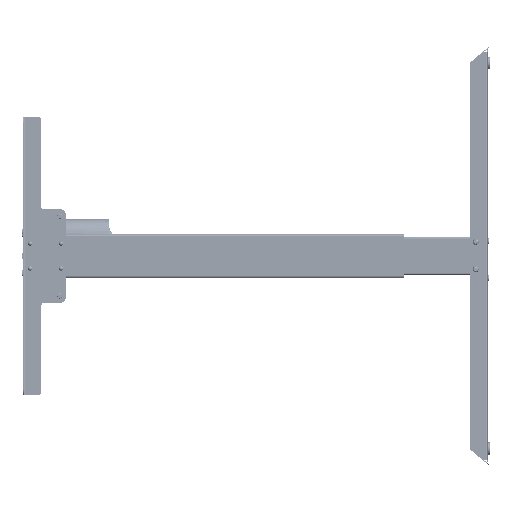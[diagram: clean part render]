
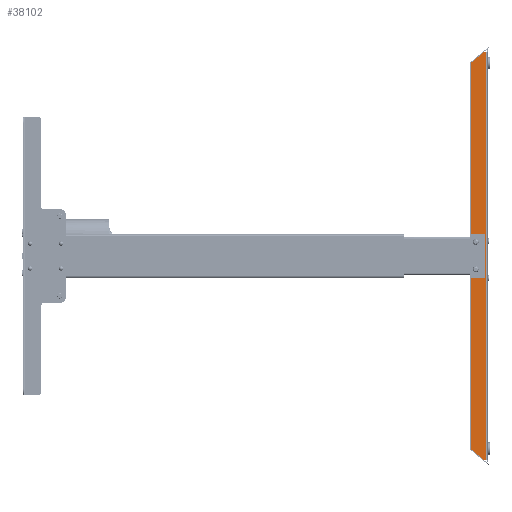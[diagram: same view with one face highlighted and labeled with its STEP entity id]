
A CAD part, left-side view. The second image highlights one B-rep face of the part: STEP entity #38102.
In plain terms, the highlighted planar face has unit normal (-1, 0, 0).
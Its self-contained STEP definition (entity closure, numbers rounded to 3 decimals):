
#9 = AXIS2_PLACEMENT_3D ( 'NONE', #24576, #62690, #100793 ) ;
#6217 = DIRECTION ( 'NONE',  ( -1., 0., 0. ) ) ;
#7092 = CARTESIAN_POINT ( 'NONE',  ( -21.5, 26., 310.284 ) ) ;
#8722 = VERTEX_POINT ( 'NONE', #108064 ) ;
#9560 = EDGE_CURVE ( 'NONE', #118874, #48406, #137733, .T. ) ;
#10016 = LINE ( 'NONE', #76708, #80795 ) ;
#10393 = EDGE_CURVE ( 'NONE', #61408, #125363, #39532, .T. ) ;
#10814 = VECTOR ( 'NONE', #142630, 1000. ) ;
#11673 = EDGE_LOOP ( 'NONE', ( #40321, #125358, #98291, #109445, #142360, #66888, #105610, #146217, #88692, #34281 ) ) ;
#16346 = CARTESIAN_POINT ( 'NONE',  ( -21.5, 5.325, -329.032 ) ) ;
#17106 = DIRECTION ( 'NONE',  ( 1., 0., 0. ) ) ;
#20058 = EDGE_CURVE ( 'NONE', #123552, #61408, #139211, .T. ) ;
#22734 = CARTESIAN_POINT ( 'NONE',  ( -21.5, 1., 329.5 ) ) ;
#24576 = CARTESIAN_POINT ( 'NONE',  ( -21.5, 0., 333.5 ) ) ;
#26269 = CARTESIAN_POINT ( 'NONE',  ( -21.5, 26., 329.5 ) ) ;
#28044 = AXIS2_PLACEMENT_3D ( 'NONE', #108269, #150706, #96149 ) ;
#30731 = EDGE_CURVE ( 'NONE', #8722, #163188, #59509, .T. ) ;
#34281 = ORIENTED_EDGE ( 'NONE', *, *, #165122, .F. ) ;
#38102 = ADVANCED_FACE ( 'NONE', ( #154540, #61833, #168419 ), #102499, .T. ) ;
#39532 = LINE ( 'NONE', #132204, #88404 ) ;
#40321 = ORIENTED_EDGE ( 'NONE', *, *, #41508, .F. ) ;
#40540 = DIRECTION ( 'NONE',  ( 0., 0., -1. ) ) ;
#41508 = EDGE_CURVE ( 'NONE', #123552, #56477, #121467, .T. ) ;
#42918 = EDGE_CURVE ( 'NONE', #90318, #90318, #102655, .T. ) ;
#45287 = EDGE_LOOP ( 'NONE', ( #67923 ) ) ;
#46055 = ORIENTED_EDGE ( 'NONE', *, *, #42918, .T. ) ;
#46204 = AXIS2_PLACEMENT_3D ( 'NONE', #105026, #129295, #53918 ) ;
#46652 = VERTEX_POINT ( 'NONE', #16346 ) ;
#47537 = AXIS2_PLACEMENT_3D ( 'NONE', #107191, #17106, #40540 ) ;
#48255 = CARTESIAN_POINT ( 'NONE',  ( -21.5, 24.928, -312.583 ) ) ;
#48298 = CARTESIAN_POINT ( 'NONE',  ( -21.5, 24.928, 312.583 ) ) ;
#48406 = VERTEX_POINT ( 'NONE', #133249 ) ;
#50929 = CARTESIAN_POINT ( 'NONE',  ( -21.5, 5.325, 329.032 ) ) ;
#51257 = CARTESIAN_POINT ( 'NONE',  ( -21.5, 4.039, 327.5 ) ) ;
#52524 = CARTESIAN_POINT ( 'NONE',  ( -21.5, 1., 333.5 ) ) ;
#53918 = DIRECTION ( 'NONE',  ( 0., 0., 1. ) ) ;
#56477 = VERTEX_POINT ( 'NONE', #22734 ) ;
#58843 = VECTOR ( 'NONE', #78224, 1000. ) ;
#59509 = CIRCLE ( 'NONE', #170247, 3. ) ;
#61408 = VERTEX_POINT ( 'NONE', #50929 ) ;
#61748 = EDGE_CURVE ( 'NONE', #115870, #115870, #149973, .T. ) ;
#61833 = FACE_BOUND ( 'NONE', #144244, .T. ) ;
#62690 = DIRECTION ( 'NONE',  ( -1., 0., 0. ) ) ;
#66888 = ORIENTED_EDGE ( 'NONE', *, *, #30731, .T. ) ;
#67923 = ORIENTED_EDGE ( 'NONE', *, *, #61748, .T. ) ;
#67977 = CARTESIAN_POINT ( 'NONE',  ( -21.5, 4.039, 329.5 ) ) ;
#71062 = CARTESIAN_POINT ( 'NONE',  ( -21.5, 0., -329.5 ) ) ;
#76428 = DIRECTION ( 'NONE',  ( 0., 0., 1. ) ) ;
#76708 = CARTESIAN_POINT ( 'NONE',  ( -21.5, 328.433, -57.912 ) ) ;
#77095 = VECTOR ( 'NONE', #135183, 1000. ) ;
#78224 = DIRECTION ( 'NONE',  ( 0., -1., 0. ) ) ;
#78413 = DIRECTION ( 'NONE',  ( 0., 0.766, 0.643 ) ) ;
#80795 = VECTOR ( 'NONE', #78413, 1000. ) ;
#84933 = DIRECTION ( 'NONE',  ( -1., 0., 0. ) ) ;
#88404 = VECTOR ( 'NONE', #146074, 1000. ) ;
#88692 = ORIENTED_EDGE ( 'NONE', *, *, #9560, .F. ) ;
#90318 = VERTEX_POINT ( 'NONE', #143175 ) ;
#95754 = CARTESIAN_POINT ( 'NONE',  ( -21.5, 26., 333.5 ) ) ;
#96149 = DIRECTION ( 'NONE',  ( 0., 0., -1. ) ) ;
#96222 = CARTESIAN_POINT ( 'NONE',  ( -21.5, 23., -310.284 ) ) ;
#98291 = ORIENTED_EDGE ( 'NONE', *, *, #10393, .T. ) ;
#100488 = AXIS2_PLACEMENT_3D ( 'NONE', #51257, #101523, #76428 ) ;
#100793 = DIRECTION ( 'NONE',  ( 0., 0., 1. ) ) ;
#101523 = DIRECTION ( 'NONE',  ( -1., 0., 0. ) ) ;
#102394 = EDGE_CURVE ( 'NONE', #125363, #142498, #123742, .T. ) ;
#102499 = PLANE ( 'NONE',  #9 ) ;
#102655 = CIRCLE ( 'NONE', #28044, 2.5 ) ;
#103656 = CIRCLE ( 'NONE', #125778, 2. ) ;
#105026 = CARTESIAN_POINT ( 'NONE',  ( -21.5, 23., 310.284 ) ) ;
#105610 = ORIENTED_EDGE ( 'NONE', *, *, #153410, .F. ) ;
#107191 = CARTESIAN_POINT ( 'NONE',  ( -21.5, 18., 22.5 ) ) ;
#107893 = DIRECTION ( 'NONE',  ( 0., 0., -1. ) ) ;
#108064 = CARTESIAN_POINT ( 'NONE',  ( -21.5, 26., -310.284 ) ) ;
#108269 = CARTESIAN_POINT ( 'NONE',  ( -21.5, 18., -21.5 ) ) ;
#108743 = LINE ( 'NONE', #95754, #148474 ) ;
#109314 = DIRECTION ( 'NONE',  ( 0., 0., 1. ) ) ;
#109445 = ORIENTED_EDGE ( 'NONE', *, *, #102394, .T. ) ;
#115870 = VERTEX_POINT ( 'NONE', #129727 ) ;
#118685 = EDGE_CURVE ( 'NONE', #142498, #8722, #108743, .T. ) ;
#118874 = VERTEX_POINT ( 'NONE', #130914 ) ;
#121467 = LINE ( 'NONE', #26269, #58843 ) ;
#123552 = VERTEX_POINT ( 'NONE', #67977 ) ;
#123742 = CIRCLE ( 'NONE', #46204, 3. ) ;
#125358 = ORIENTED_EDGE ( 'NONE', *, *, #20058, .T. ) ;
#125363 = VERTEX_POINT ( 'NONE', #48298 ) ;
#125778 = AXIS2_PLACEMENT_3D ( 'NONE', #134510, #6217, #109314 ) ;
#129295 = DIRECTION ( 'NONE',  ( -1., 0., 0. ) ) ;
#129727 = CARTESIAN_POINT ( 'NONE',  ( -21.5, 18., 20. ) ) ;
#130914 = CARTESIAN_POINT ( 'NONE',  ( -21.5, 1., -329.5 ) ) ;
#132204 = CARTESIAN_POINT ( 'NONE',  ( -21.5, 0., 333.5 ) ) ;
#133249 = CARTESIAN_POINT ( 'NONE',  ( -21.5, 4.039, -329.5 ) ) ;
#134510 = CARTESIAN_POINT ( 'NONE',  ( -21.5, 4.039, -327.5 ) ) ;
#135183 = DIRECTION ( 'NONE',  ( 0., 1., 0. ) ) ;
#137733 = LINE ( 'NONE', #71062, #77095 ) ;
#139211 = CIRCLE ( 'NONE', #100488, 2. ) ;
#141441 = EDGE_CURVE ( 'NONE', #46652, #48406, #103656, .T. ) ;
#142360 = ORIENTED_EDGE ( 'NONE', *, *, #118685, .T. ) ;
#142498 = VERTEX_POINT ( 'NONE', #7092 ) ;
#142630 = DIRECTION ( 'NONE',  ( 0., 0., -1. ) ) ;
#143175 = CARTESIAN_POINT ( 'NONE',  ( -21.5, 18., -24. ) ) ;
#144244 = EDGE_LOOP ( 'NONE', ( #46055 ) ) ;
#146074 = DIRECTION ( 'NONE',  ( 0., 0.766, -0.643 ) ) ;
#146217 = ORIENTED_EDGE ( 'NONE', *, *, #141441, .T. ) ;
#148474 = VECTOR ( 'NONE', #107893, 1000. ) ;
#149973 = CIRCLE ( 'NONE', #47537, 2.5 ) ;
#150706 = DIRECTION ( 'NONE',  ( 1., 0., 0. ) ) ;
#153410 = EDGE_CURVE ( 'NONE', #46652, #163188, #10016, .T. ) ;
#154540 = FACE_BOUND ( 'NONE', #45287, .T. ) ;
#161261 = DIRECTION ( 'NONE',  ( 0., 0., 1. ) ) ;
#163188 = VERTEX_POINT ( 'NONE', #48255 ) ;
#165122 = EDGE_CURVE ( 'NONE', #56477, #118874, #171262, .T. ) ;
#168419 = FACE_OUTER_BOUND ( 'NONE', #11673, .T. ) ;
#170247 = AXIS2_PLACEMENT_3D ( 'NONE', #96222, #84933, #161261 ) ;
#171262 = LINE ( 'NONE', #52524, #10814 ) ;
